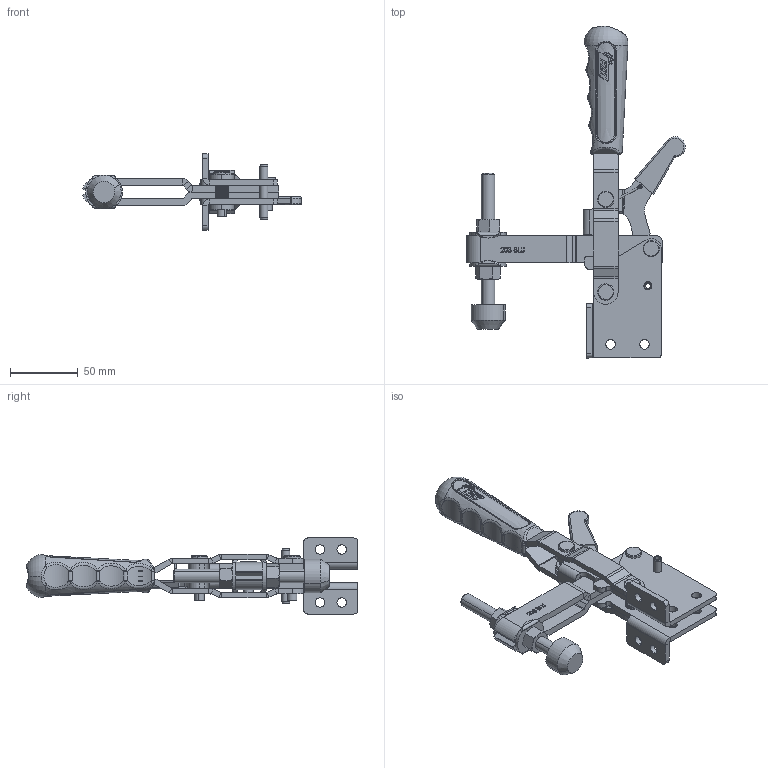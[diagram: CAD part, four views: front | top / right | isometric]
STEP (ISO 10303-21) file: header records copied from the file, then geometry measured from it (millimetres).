
FILE_DESCRIPTION (( 'STEP AP214' ), '1' );
FILE_NAME ('203_YU-K.STEP', '2024-09-09T16:31:41', ( '' ), ( '' ), 'SwSTEP 2.0', 'SolidWorks 2023', '' );
FILE_SCHEMA (( 'AUTOMOTIVE_DESIGN' ));
Length unit declared in the file: millimetre
Products named in the file (20): FZK_203_B-K_01_00; M10 PABUÇ; 203_YU-K; FZK_203_B_07_00; M10 A.K. SOMUN ; TTMK_03_00; FZK_203_B_03A_00; FZK_203_Y_01_00; Ø6x40 YARIKLI PİM; FZK_203_B_03_00; FZK_203_BU_01_00; M10x100 A.K.B; YAY 203_B-K; FZK_203_B_04_00; FZK_203_B_05_00; M10 PUL DIN 125; FZK_203_B_06_00; FZK_203_Y_02_00; DALDIRMA SAP; FZK_203_BU_02_00
Assembly tree (25 placements, depth 3):
  203_YU-K
    FZK_203_Y_01_00
    FZK_203_BU_01_00
    M10 PUL DIN 125  x2
    M10 A.K. SOMUN   x2
    Ø6x40 YARIKLI PİM
    DALDIRMA SAP
    FZK_203_B-K_01_00
    FZK_203_B_04_00  x2
    YAY 203_B-K
    FZK_203_Y_02_00
    FZK_203_B_07_00  x2
    M10 PABUÇ
    M10x100 A.K.B
    FZK_203_B_06_00  x2
    FZK_203_BU_02_00
    FZK_203_B_05_00
    FZK_203_B_03_00
      FZK_203_B_03A_00  x2
    TTMK_03_00
Bounding box: 161.16 x 244.61 x 56.01 mm (x, y, z)
Volume: 179560.4 mm3; surface area: 98050.5 mm2
Topology: 24 solids, 24 shells, 1583 faces, 4179 edges, 2659 vertices
Faces by surface type: cylinder 880, plane 312, bspline 271, cone 86, sphere 20, torus 14
Entity records: 56676 total; most frequent: CARTESIAN_POINT 31404, ORIENTED_EDGE 5886, DIRECTION 3892, EDGE_CURVE 2943, VERTEX_POINT 1877, AXIS2_PLACEMENT_3D 1440, B_SPLINE_CURVE_WITH_KNOTS 1362, EDGE_LOOP 1220
